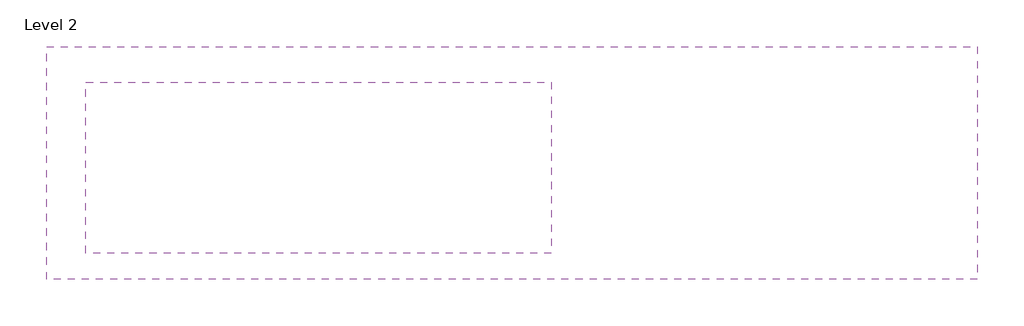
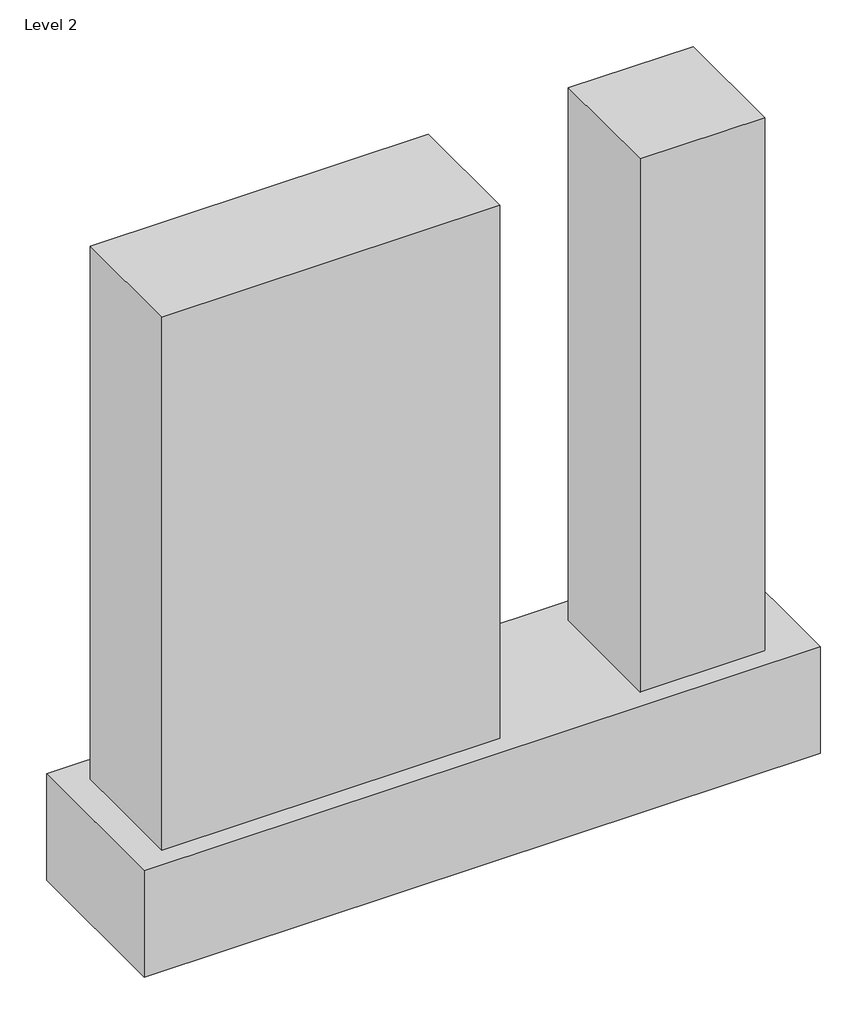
# One storey: 2 proxies.
"""IFC4 building model written with IfcOpenShell, lengths in millimetres."""

from ifc_helpers import new_model, si_unit, frame, origin, place, context, project, spatial, polyline, outline, extrude, element, save

model = new_model("IFC4")

# Units and contexts
model_context = context("Model", 3, world=origin())
ifc_project = project(units=[si_unit("LENGTHUNIT", "METRE", prefix="MILLI")], contexts=[model_context])

# Site, building, storey
site = spatial("IfcSite", under=ifc_project)
building = spatial("IfcBuilding", under=site)
storey = spatial("IfcBuildingStorey", under=building, Name="Level 2", Elevation=3048.0)

# Proxies
placement = place(None, origin())
element("IfcBuildingElementProxy", 1, Name="Mass 2 : Mass 2", ObjectType="Mass 2 : Mass 2", at=placement, inside=storey, context=model_context, shape_type="SweptSolid", body=[
    extrude(outline(polyline([(19492.7832788, 8845.1788316), (19492.7832788, -298.8211684), (-17083.2167212, -298.8211684), (-17083.2167212, 8845.1788316), (19492.7832788, 8845.1788316)])), frame((0.0, 0.0, 6096.0), z_axis=(0.0, 0.0, 1.0), x_axis=(1.0, 0.0, 0.0)), (0.0, 0.0, 1.0), 6096.0),
])
element("IfcBuildingElementProxy", 2, Name="Mass 3 : Mass 3", ObjectType="Mass 3 : Mass 3", at=placement, inside=storey, context=model_context, shape_type="SweptSolid", body=[
    extrude(outline(polyline([(2754.6386664, 7438.4700975), (2754.6386664, 732.8700975), (-15533.3613336, 732.8700975), (-15533.3613336, 7438.4700975), (2754.6386664, 7438.4700975)])), frame((0.0, 0.0, 12192.0), z_axis=(0.0, 0.0, 1.0), x_axis=(1.0, 0.0, 0.0)), (0.0, 0.0, 1.0), 30480.0),
    extrude(outline(polyline([(10330.520903, 732.8700975), (10330.520903, 7438.4700975), (17077.6206169, 7438.4700975), (17077.6206169, 732.8700975), (10330.520903, 732.8700975)])), frame((0.0, 0.0, 12192.0), z_axis=(0.0, 0.0, 1.0), x_axis=(1.0, 0.0, 0.0)), (0.0, 0.0, 1.0), 30480.0),
])

save(model, "model.ifc")
